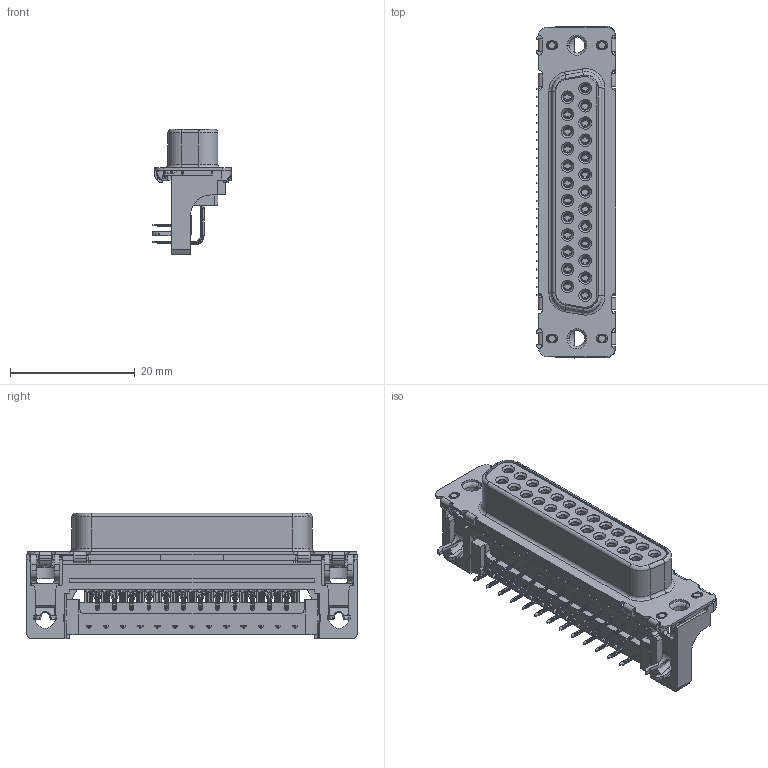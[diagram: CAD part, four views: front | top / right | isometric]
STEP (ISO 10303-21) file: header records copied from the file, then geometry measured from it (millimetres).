
FILE_DESCRIPTION(/* description */ (''),/* implementation_level */ '2;1');
FILE_NAME(/* name */ '101113731ugm000_a.stp',/* time_stamp */ '2024-01-09T11:12:21+01:00',/* author */ (''),/* organization */ (''),/* preprocessor_version */ 'ST-DEVELOPER v19.3',/* originating_system */ 'SIEMENS PLM Software NX2212.6000',/* authorisation */ '');
FILE_SCHEMA (('AUTOMOTIVE_DESIGN { 1 0 10303 214 3 1 1 1 }'));
Products named in the file (1): 101113731ugm000_a
Bounding box: 12.69 x 53.2 x 20.1 mm (x, y, z)
Volume: 4857.6 mm3; surface area: 6367.9 mm2
Topology: 3 solids, 17 shells, 3706 faces, 9327 edges, 5654 vertices
Faces by surface type: plane 1627, bspline 1186, cylinder 713, sphere 100, cone 78, revolution 2
Full cylindrical faces by diameter (mm): 1.2 x29, 2 x25, 2.5 x2, 3.2 x2, 3.6 x2
Entity records: 153025 total; most frequent: CARTESIAN_POINT 47034, ORIENTED_EDGE 18248, DIRECTION 13524, EDGE_CURVE 9124, VERTEX_POINT 5648, LINE 5436, VECTOR 5436, AXIS2_PLACEMENT_3D 4043
